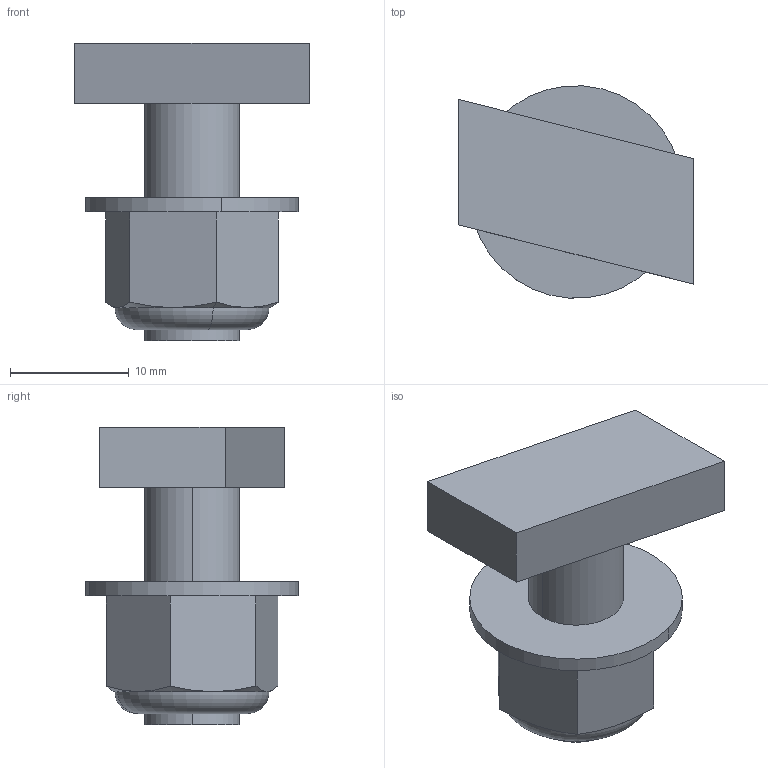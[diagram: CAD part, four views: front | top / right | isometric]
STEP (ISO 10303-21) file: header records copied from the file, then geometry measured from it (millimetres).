
FILE_DESCRIPTION((''),'2;1');
FILE_NAME('203446_ASM','2016-06-23T',('adam.dellomodarme'),(''),'PRO/ENGINEER BY PARAMETRIC TECHNOLOGY CORPORATION, 2012420','PRO/ENGINEER BY PARAMETRIC TECHNOLOGY CORPORATION, 2012420','');
FILE_SCHEMA(('CONFIG_CONTROL_DESIGN'));
Length unit declared in the file: inch
Products named in the file (6): 834-007; 990812M_5-1-SOLID1; 990812M_4-1-SOLID1; 990812M_ASM; ASM0001_ASM; 203446_ASM
Assembly tree (5 placements, depth 4):
  203446_ASM
    ASM0001_ASM
      834-007
      990812M_ASM
        990812M_5-1-SOLID1
        990812M_4-1-SOLID1
Bounding box: 19.76 x 17.85 x 25.07 mm (x, y, z)
Volume: 3269.6 mm3; surface area: 2870 mm2
Topology: 3 solids, 3 shells, 106 faces, 226 edges, 130 vertices
Faces by surface type: cylinder 40, cone 40, plane 20, torus 6
Entity records: 3603 total; most frequent: CARTESIAN_POINT 1209, DIRECTION 492, ORIENTED_EDGE 452, EDGE_CURVE 226, AXIS2_PLACEMENT_3D 201, VERTEX_POINT 130, EDGE_LOOP 114, FACE_OUTER_BOUND 106
